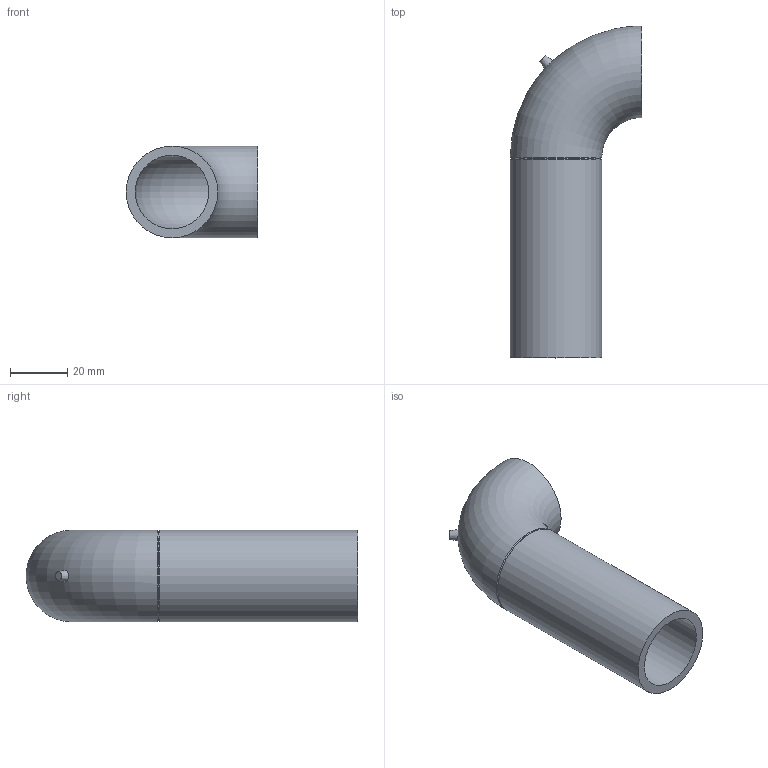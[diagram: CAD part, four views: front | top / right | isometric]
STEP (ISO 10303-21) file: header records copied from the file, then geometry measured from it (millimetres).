
FILE_DESCRIPTION(/* description */ (''),/* implementation_level */ '2;1');
FILE_NAME(/* name */ 'Z:\Geberit\Export\NewStep\379055.stp',/* time_stamp */ '2014-04-02T08:07:26+02:00',/* author */ ('bruh'),/* organization */ (''),/* preprocessor_version */ 'ST-DEVELOPER v15.2',/* originating_system */ 'Autodesk Inventor 2014',/* authorisation */ '');
FILE_SCHEMA (('AUTOMOTIVE_DESIGN { 1 0 10303 214 3 1 1 }'));
Length unit declared in the file: millimetre
Products named in the file (1): 379055
Bounding box: 46 x 116 x 32 mm (x, y, z)
Volume: 33457.8 mm3; surface area: 21856.6 mm2
Topology: 1 solids, 1 shells, 10 faces, 20 edges, 12 vertices
Faces by surface type: cone 3, plane 3, torus 2, cylinder 2
Full cylindrical faces by diameter (mm): 25.7 x1, 32 x1
Entity records: 281 total; most frequent: CARTESIAN_POINT 76, DIRECTION 40, EDGE_LOOP 20, ORIENTED_EDGE 20, AXIS2_PLACEMENT_3D 20, FACE_BOUND 12, STYLED_ITEM 11, VERTEX_POINT 10
